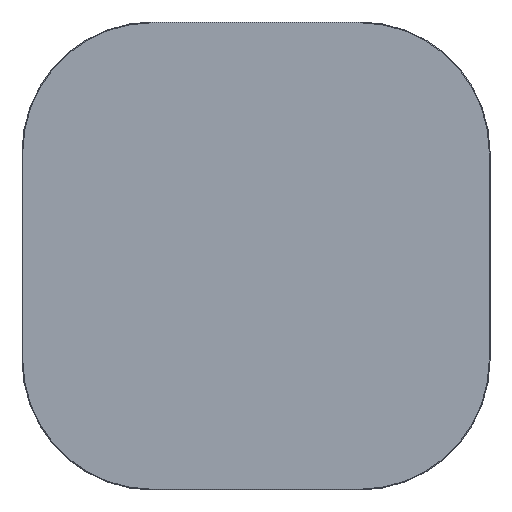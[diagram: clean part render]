
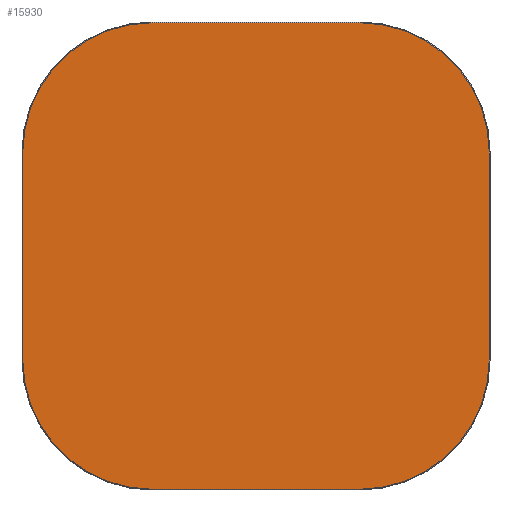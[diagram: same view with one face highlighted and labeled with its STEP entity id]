
A CAD part, top view. The second image highlights one B-rep face of the part: STEP entity #15930.
In plain terms, the highlighted planar face has unit normal (0, 0, 1).
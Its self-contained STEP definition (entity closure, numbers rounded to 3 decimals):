
#15855=CARTESIAN_POINT('',(0.,0.,20.));
#15856=DIRECTION('',(1.,0.,0.));
#15857=DIRECTION('',(0.,0.,1.));
#15858=AXIS2_PLACEMENT_3D('',#15855,#15857,#15856);
#15859=PLANE('',#15858);
#15860=CARTESIAN_POINT('',(-200.,-448.5,20.));
#15861=VERTEX_POINT('',#15860);
#15862=CARTESIAN_POINT('',(200.,-448.5,20.));
#15863=VERTEX_POINT('',#15862);
#15864=CARTESIAN_POINT('',(-200.,-448.5,20.));
#15865=DIRECTION('',(1.,0.,0.));
#15866=VECTOR('',#15865,400.);
#15867=LINE('',#15864,#15866);
#15868=EDGE_CURVE('',#15861,#15863,#15867,.T.);
#15869=ORIENTED_EDGE('E105',*,*,#15868,.T.);
#15870=CARTESIAN_POINT('',(448.5,-200.,20.));
#15871=VERTEX_POINT('',#15870);
#15872=CARTESIAN_POINT('',(200.,-200.,20.));
#15873=DIRECTION('',(0.,-1.,0.));
#15874=DIRECTION('',(0.,0.,1.));
#15875=AXIS2_PLACEMENT_3D('',#15872,#15874,#15873);
#15876=CIRCLE('',#15875,248.5);
#15877=EDGE_CURVE('',#15863,#15871,#15876,.T.);
#15878=ORIENTED_EDGE('E107',*,*,#15877,.T.);
#15879=CARTESIAN_POINT('',(448.5,200.,20.));
#15880=VERTEX_POINT('',#15879);
#15881=CARTESIAN_POINT('',(448.5,-200.,20.));
#15882=DIRECTION('',(0.,1.,0.));
#15883=VECTOR('',#15882,400.);
#15884=LINE('',#15881,#15883);
#15885=EDGE_CURVE('',#15871,#15880,#15884,.T.);
#15886=ORIENTED_EDGE('E109',*,*,#15885,.T.);
#15887=CARTESIAN_POINT('',(200.,448.5,20.));
#15888=VERTEX_POINT('',#15887);
#15889=CARTESIAN_POINT('',(200.,200.,20.));
#15890=DIRECTION('',(1.,0.,0.));
#15891=DIRECTION('',(0.,0.,1.));
#15892=AXIS2_PLACEMENT_3D('',#15889,#15891,#15890);
#15893=CIRCLE('',#15892,248.5);
#15894=EDGE_CURVE('',#15880,#15888,#15893,.T.);
#15895=ORIENTED_EDGE('E111',*,*,#15894,.T.);
#15896=CARTESIAN_POINT('',(-200.,448.5,20.));
#15897=VERTEX_POINT('',#15896);
#15898=CARTESIAN_POINT('',(200.,448.5,20.));
#15899=DIRECTION('',(-1.,0.,0.));
#15900=VECTOR('',#15899,400.);
#15901=LINE('',#15898,#15900);
#15902=EDGE_CURVE('',#15888,#15897,#15901,.T.);
#15903=ORIENTED_EDGE('E113',*,*,#15902,.T.);
#15904=CARTESIAN_POINT('',(-448.5,200.,20.));
#15905=VERTEX_POINT('',#15904);
#15906=CARTESIAN_POINT('',(-200.,200.,20.));
#15907=DIRECTION('',(0.,1.,0.));
#15908=DIRECTION('',(0.,0.,1.));
#15909=AXIS2_PLACEMENT_3D('',#15906,#15908,#15907);
#15910=CIRCLE('',#15909,248.5);
#15911=EDGE_CURVE('',#15897,#15905,#15910,.T.);
#15912=ORIENTED_EDGE('E115',*,*,#15911,.T.);
#15913=CARTESIAN_POINT('',(-448.5,-200.,20.));
#15914=VERTEX_POINT('',#15913);
#15915=CARTESIAN_POINT('',(-448.5,200.,20.));
#15916=DIRECTION('',(0.,-1.,0.));
#15917=VECTOR('',#15916,400.);
#15918=LINE('',#15915,#15917);
#15919=EDGE_CURVE('',#15905,#15914,#15918,.T.);
#15920=ORIENTED_EDGE('E117',*,*,#15919,.T.);
#15921=CARTESIAN_POINT('',(-200.,-200.,20.));
#15922=DIRECTION('',(-1.,0.,0.));
#15923=DIRECTION('',(-0.,0.,1.));
#15924=AXIS2_PLACEMENT_3D('',#15921,#15923,#15922);
#15925=CIRCLE('',#15924,248.5);
#15926=EDGE_CURVE('',#15914,#15861,#15925,.T.);
#15927=ORIENTED_EDGE('E119',*,*,#15926,.T.);
#15928=EDGE_LOOP('',(#15869,#15878,#15886,#15895,#15903,#15912,#15920,#15927));
#15929=FACE_OUTER_BOUND('',#15928,.T.);
#15930=ADVANCED_FACE('F2',(#15929),#15859,.T.);
